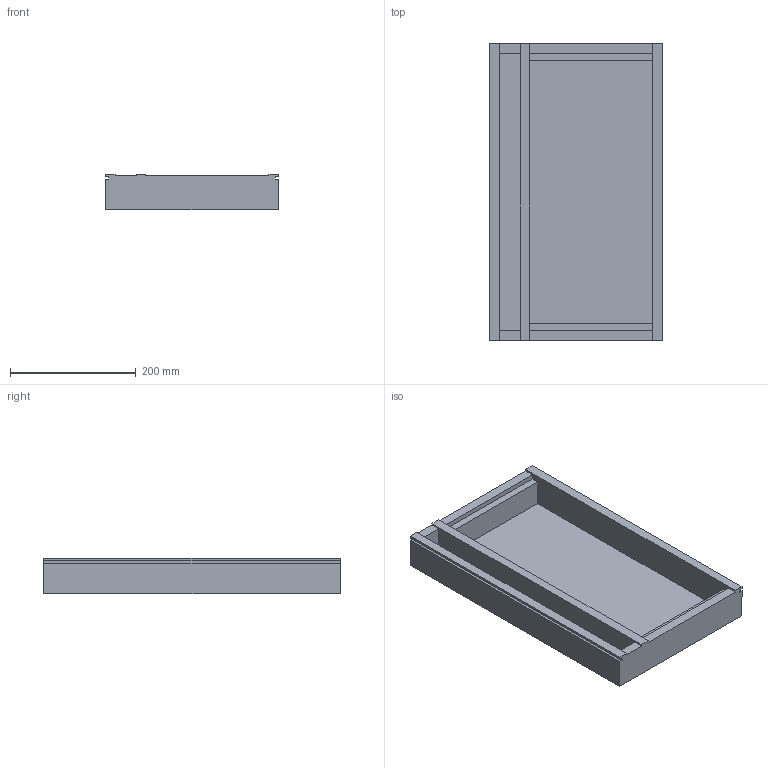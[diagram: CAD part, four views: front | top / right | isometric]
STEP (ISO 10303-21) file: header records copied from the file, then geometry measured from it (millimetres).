
FILE_DESCRIPTION (( 'STEP AP214' ), '1' );
FILE_NAME ('Flexline Holzeinsatz KAB400-600.STEP', '2010-10-25T12:39:58', ( 'grass' ), ( '' ), 'SwSTEP 2.0', 'SolidWorks 2010', '' );
FILE_SCHEMA (( 'AUTOMOTIVE_DESIGN' ));
Length unit declared in the file: millimetre
Products named in the file (1): Flexline Holzeinsatz KAB400-600
Bounding box: 275 x 472 x 57 mm (x, y, z)
Volume: 2168608 mm3; surface area: 467786 mm2
Topology: 1 solids, 1 shells, 34 faces, 96 edges, 64 vertices
Faces by surface type: plane 34
Entity records: 1114 total; most frequent: CARTESIAN_POINT 195, ORIENTED_EDGE 192, DIRECTION 166, EDGE_CURVE 96, VECTOR 96, LINE 96, VERTEX_POINT 64, AXIS2_PLACEMENT_3D 35
